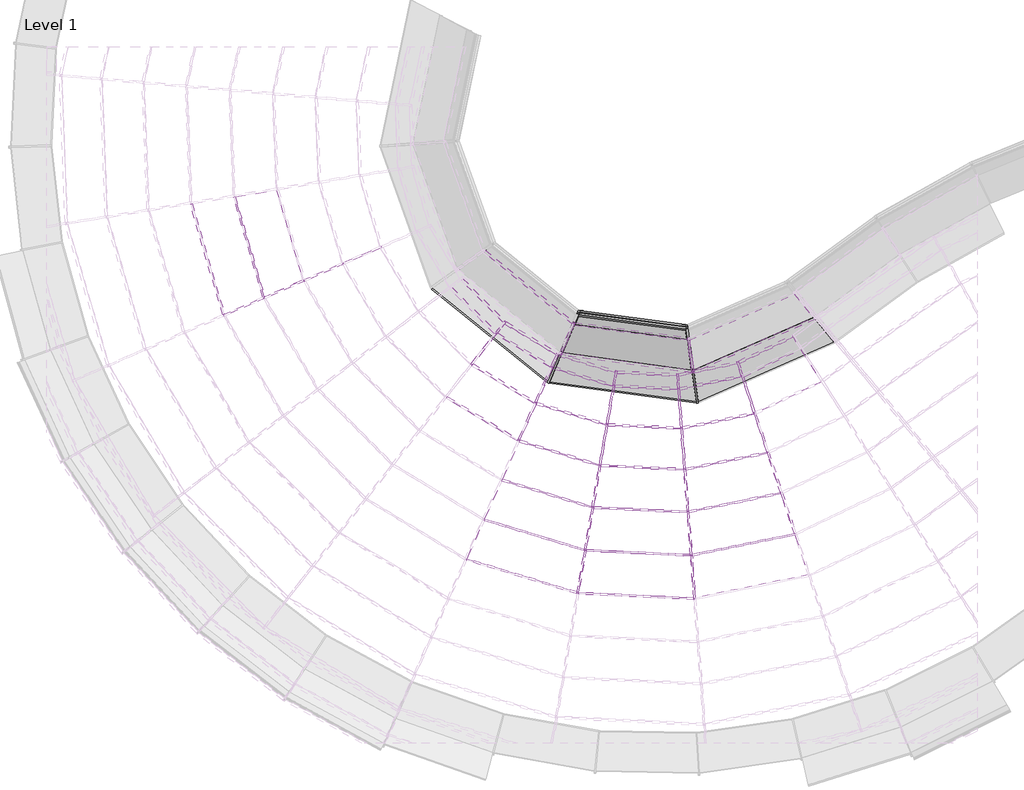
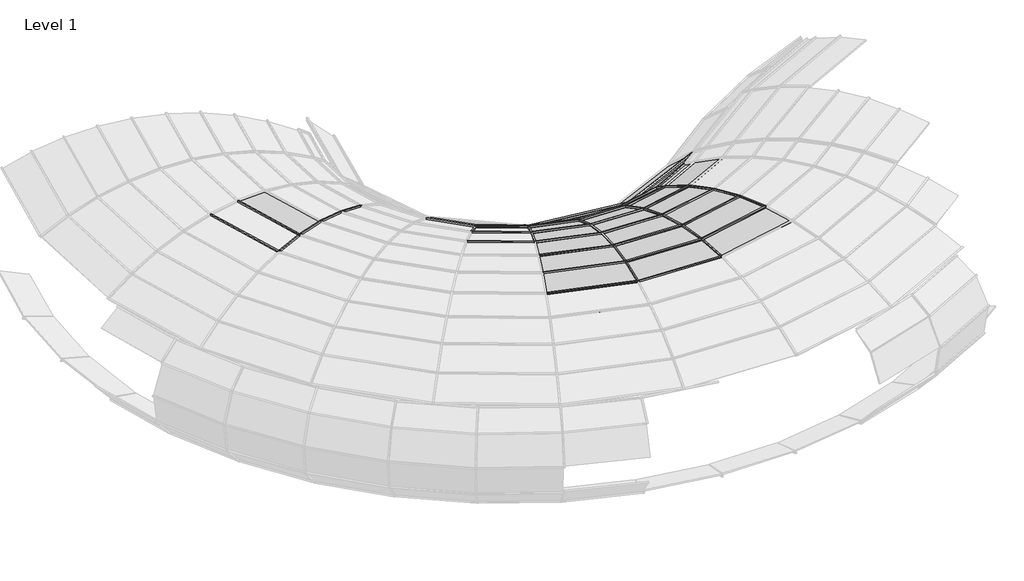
# One storey, part 5 of 23: 75 members, 29 plates.
"""IFC4 building model written with IfcOpenShell, lengths in millimetres."""

from ifc_helpers import new_model, si_unit, origin, place, context, project, spatial, transform, mapped, element, save
from components import member_c876edb5, member_782630c7, member_398e5ff5, member_01d9c279, member_398607d0, member_5ccaa950, member_8174f0e4, member_18f2ae55, member_299080b6, member_cb0bb3a9, member_172ab1ab, member_54499f2f, member_c8b9029b, member_0cd36c09, member_d0a40a1c, member_ff9adfd2, member_8c9da58c, member_391bee44, member_01ebdf2a, member_d6b8231b, system_panel_glazed_7bf4cd1b, system_panel_glazed_9f229a92, system_panel_glazed_a07c5774, system_panel_glazed_4fd85c75, system_panel_glazed_1256fb3b, system_panel_glazed_de823024, system_panel_glazed_b0e446d2, system_panel_glazed_ac948568, system_panel_glazed_688557e5, system_panel_glazed_4c871569, system_panel_glazed_08c7efc5

model = new_model("IFC4")

# Units and contexts
model_context = context("Model", 3, world=origin())
ifc_project = project(units=[si_unit("LENGTHUNIT", "METRE", prefix="MILLI")], contexts=[model_context])

# Site, building, storey
site = spatial("IfcSite", under=ifc_project)
building = spatial("IfcBuilding", under=site)
storey = spatial("IfcBuildingStorey", under=building, Name="Level 1", Elevation=0.0)

# Members
placement = place(None, origin())
member_shape = member_c876edb5(model_context)
element("IfcMember", 1, ObjectType="Rectangular Mullion : 1\" Square", at=placement, inside=storey, context=model_context, shape_type="MappedRepresentation", body=[
    mapped(member_shape, transform((-11868.8961869, -5711.7892801, 2676.0506073), x_axis=(0.4970218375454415, 0.8247218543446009, -0.26982059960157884), y_axis=(0.13927225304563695, 0.23109823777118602, 0.9629106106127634), z_axis=(0.8564884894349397, -0.5161661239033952, 0.0))),
])
element("IfcMember", 2, ObjectType="Rectangular Mullion : 1\" Square", at=placement, inside=storey, context=model_context, shape_type="MappedRepresentation", body=[
    mapped(member_shape, transform((-10739.6248828, -6057.9710584, 2676.0506073), x_axis=(0.27979383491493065, 0.921364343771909, -0.26982059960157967), y_axis=(0.07840202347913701, 0.2581787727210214, 0.9629106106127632), z_axis=(0.9568534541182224, -0.29057093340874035, 0.0))),
])
element("IfcMember", 3, ObjectType="Rectangular Mullion : 1\" Square", at=placement, inside=storey, context=model_context, shape_type="MappedRepresentation", body=[
    mapped(member_shape, transform((-9559.9542553, -6116.9007844, 2676.0506073), x_axis=(0.04550783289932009, 0.961834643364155, -0.2698205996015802), y_axis=(0.012751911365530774, 0.2695190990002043, 0.962910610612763), z_axis=(0.9988825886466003, -0.04726070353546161, 0.0))),
])
element("IfcMember", 4, ObjectType="Rectangular Mullion : 1\" Square", at=placement, inside=storey, context=model_context, shape_type="MappedRepresentation", body=[
    mapped(member_shape, transform((-8401.8044769, -5884.9857297, 2676.0506073), x_axis=(-0.1915526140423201, 0.9436654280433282, -0.26982059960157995), y_axis=(-0.05367563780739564, 0.26442783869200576, 0.9629106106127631), z_axis=(0.9800135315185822, 0.19893083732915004, 0.0))),
])
member_2_shape = member_782630c7(model_context)
element("IfcMember", 5, ObjectType="Rectangular Mullion : 1\" Square", at=placement, inside=storey, context=model_context, shape_type="MappedRepresentation", body=[
    mapped(member_2_shape, transform((-11634.8412772, -5185.6927273, 2475.91846), x_axis=(0.47703912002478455, 0.7915639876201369, -0.3819163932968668), y_axis=(0.19713230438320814, 0.32710699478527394, 0.924196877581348), z_axis=(0.8564884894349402, -0.5161661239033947, 0.0))),
])
element("IfcMember", 6, ObjectType="Rectangular Mullion : 1\" Square", at=placement, inside=storey, context=model_context, shape_type="MappedRepresentation", body=[
    mapped(member_2_shape, transform((-10641.6113447, -5490.5623609, 2475.91846), x_axis=(0.2685447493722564, 0.8843209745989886, -0.3819163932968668), y_axis=(0.1109738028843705, 0.36543802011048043, 0.9241968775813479), z_axis=(0.9568534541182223, -0.29057093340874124, 0.0))),
])
element("IfcMember", 7, ObjectType="Rectangular Mullion : 1\" Square", at=placement, inside=storey, context=model_context, shape_type="MappedRepresentation", body=[
    mapped(member_2_shape, transform((-9603.9576132, -5542.7727602, 2475.91846), x_axis=(0.04367819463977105, 0.9231641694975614, -0.3819163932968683), y_axis=(0.01804963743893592, 0.38148963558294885, 0.9241968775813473), z_axis=(0.9988825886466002, -0.04726070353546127, 0.0))),
])
element("IfcMember", 8, ObjectType="Rectangular Mullion : 1\" Square", at=placement, inside=storey, context=model_context, shape_type="MappedRepresentation", body=[
    mapped(member_2_shape, transform((-8585.1420081, -5339.1408495, 2475.91846), x_axis=(-0.18385125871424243, 0.9057254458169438, -0.381916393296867), y_axis=(-0.0759749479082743, 0.37428323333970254, 0.9241968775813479), z_axis=(0.9800135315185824, 0.19893083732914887, 0.0))),
])
member_3_shape = member_398e5ff5(model_context)
element("IfcMember", 9, ObjectType="Rectangular Mullion : 1\" Square", at=placement, inside=storey, context=model_context, shape_type="MappedRepresentation", body=[
    mapped(member_3_shape, transform((-12184.5228123, -4215.9945381, 2208.6526723), x_axis=(0.6196664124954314, 0.6140952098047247, -0.48877460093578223), y_axis=(0.3471729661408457, 0.34405165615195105, 0.8724101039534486), z_axis=(0.7039065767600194, -0.7102925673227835, 0.0))),
])
element("IfcMember", 10, ObjectType="Rectangular Mullion : 1\" Square", at=placement, inside=storey, context=model_context, shape_type="MappedRepresentation", body=[
    mapped(member_3_shape, transform((-11412.1368379, -4685.1091764, 2208.6526723), x_axis=(0.45030854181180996, 0.7472092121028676, -0.4887746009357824), y_axis=(0.2522888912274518, 0.41862981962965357, 0.8724101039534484), z_axis=(0.8564884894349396, -0.5161661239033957, 0.0))),
])
element("IfcMember", 11, ObjectType="Rectangular Mullion : 1\" Square", at=placement, inside=storey, context=model_context, shape_type="MappedRepresentation", body=[
    mapped(member_3_shape, transform((-10548.3509638, -4950.6700938, 2208.6526723), x_axis=(0.25349701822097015, 0.8347686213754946, -0.4887746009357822), y_axis=(0.1420236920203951, 0.467685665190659, 0.8724101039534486), z_axis=(0.9568534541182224, -0.2905709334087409, 0.0))),
])
element("IfcMember", 12, ObjectType="Rectangular Mullion : 1\" Square", at=placement, inside=storey, context=model_context, shape_type="MappedRepresentation", body=[
    mapped(member_3_shape, transform((-9645.8270325, -4996.4870195, 2208.6526723), x_axis=(0.04123071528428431, 0.8714352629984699, -0.48877460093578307), y_axis=(0.02309983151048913, 0.4882284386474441, 0.8724101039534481), z_axis=(0.9988825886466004, -0.04726070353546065, 0.0))),
])
element("IfcMember", 13, ObjectType="Rectangular Mullion : 1\" Square", at=placement, inside=storey, context=model_context, shape_type="MappedRepresentation", body=[
    mapped(member_3_shape, transform((-8759.5886034, -4819.7666644, 2208.6526723), x_axis=(-0.17354927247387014, 0.8549737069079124, -0.4887746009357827), y_axis=(-0.0972323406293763, 0.47900572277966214, 0.8724101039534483), z_axis=(0.9800135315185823, 0.19893083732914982, 0.0))),
])
member_4_shape = member_01d9c279(model_context)
element("IfcMember", 14, ObjectType="Rectangular Mullion : 1\" Square", at=placement, inside=storey, context=model_context, shape_type="MappedRepresentation", body=[
    mapped(member_4_shape, transform((-15967.8780384, -3961.1088587, 2850.17796), x_axis=(0.9561921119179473, 0.2809637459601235, 0.08219500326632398), y_axis=(-0.07886105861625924, -0.02317222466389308, 0.9966162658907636), z_axis=(0.2819176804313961, -0.9594385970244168, 0.0))),
])
element("IfcMember", 15, ObjectType="Rectangular Mullion : 1\" Square", at=placement, inside=storey, context=model_context, shape_type="MappedRepresentation", body=[
    mapped(member_4_shape, transform((-11048.0223247, -7843.3100458, 2850.17796), x_axis=(0.28958771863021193, 0.9536157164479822, 0.08219500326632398), y_axis=(-0.02388347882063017, -0.07864857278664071, 0.9966162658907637), z_axis=(0.9568534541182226, -0.2905709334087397, 0.0))),
])
element("IfcMember", 16, ObjectType="Rectangular Mullion : 1\" Square", at=placement, inside=storey, context=model_context, shape_type="MappedRepresentation", body=[
    mapped(member_4_shape, transform((-9421.4986575, -7923.3819854, 2850.17796), x_axis=(0.047100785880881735, 0.9955026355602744, 0.08219500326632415), y_axis=(-0.003884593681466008, -0.08210315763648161, 0.9966162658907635), z_axis=(0.9988825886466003, -0.04726070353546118, 0.0))),
])
member_5_shape = member_398607d0(model_context)
element("IfcMember", 17, ObjectType="Rectangular Mullion : 1\" Square", at=placement, inside=storey, context=model_context, shape_type="MappedRepresentation", body=[
    mapped(member_5_shape, transform((-15408.8503011, -3718.427119, 2864.5209769), x_axis=(0.9588108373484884, 0.281733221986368, -0.03616863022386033), y_axis=(0.034701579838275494, 0.010196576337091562, 0.9993457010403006), z_axis=(0.2819176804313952, -0.959438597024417, 0.0))),
])
element("IfcMember", 18, ObjectType="Rectangular Mullion : 1\" Square", at=placement, inside=storey, context=model_context, shape_type="MappedRepresentation", body=[
    mapped(member_5_shape, transform((-10944.2861608, -7242.7725814, 2864.5209769), x_axis=(0.2903808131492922, 0.956227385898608, -0.03616863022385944), y_axis=(0.01050955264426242, 0.03460807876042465, 0.9993457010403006), z_axis=(0.9568534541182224, -0.29057093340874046, 0.0))),
])
element("IfcMember", 19, ObjectType="Rectangular Mullion : 1\" Square", at=placement, inside=storey, context=model_context, shape_type="MappedRepresentation", body=[
    mapped(member_5_shape, transform((-9468.0711987, -7315.7328792, 2864.5209769), x_axis=(0.04722978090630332, 0.9982290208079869, -0.03616863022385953), y_axis=(0.0017093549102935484, 0.036128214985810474, 0.9993457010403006), z_axis=(0.9988825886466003, -0.047260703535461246, 0.0))),
])
element("IfcMember", 20, ObjectType="Rectangular Mullion : 1\" Square", at=placement, inside=storey, context=model_context, shape_type="MappedRepresentation", body=[
    mapped(member_5_shape, transform((-8018.9788571, -7024.7600198, 2864.5209769), x_axis=(-0.19880067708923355, 0.9793723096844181, -0.03616863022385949), y_axis=(-0.007195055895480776, 0.03544574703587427, 0.9993457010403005), z_axis=(0.9800135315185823, 0.19893083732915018, 0.0))),
])
member_6_shape = member_5ccaa950(model_context)
element("IfcMember", 21, ObjectType="Rectangular Mullion : 1\" Square", at=placement, inside=storey, context=model_context, shape_type="MappedRepresentation", body=[
    mapped(member_6_shape, transform((-10840.9972064, -6644.8240506, 2806.2019711), x_axis=(0.2871027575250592, 0.9454327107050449, -0.15404218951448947), y_axis=(0.04476018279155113, 0.14739580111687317, 0.9880642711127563), z_axis=(0.9568534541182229, -0.29057093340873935, 0.0))),
])
element("IfcMember", 22, ObjectType="Rectangular Mullion : 1\" Square", at=placement, inside=storey, context=model_context, shape_type="MappedRepresentation", body=[
    mapped(member_6_shape, transform((-9514.4429645, -6710.7033651, 2806.2019711), x_axis=(0.04669661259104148, 0.9869601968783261, -0.1540421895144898), y_axis=(0.007280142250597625, 0.15387006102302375, 0.9880642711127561), z_axis=(0.9988825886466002, -0.04726070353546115, 0.0))),
])
element("IfcMember", 23, ObjectType="Rectangular Mullion : 1\" Square", at=placement, inside=storey, context=model_context, shape_type="MappedRepresentation", body=[
    mapped(member_6_shape, transform((-8212.1842273, -6449.5359431, 2806.2019711), x_axis=(-0.19655645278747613, 0.9683163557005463, -0.1540421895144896), y_axis=(-0.03064374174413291, 0.1509634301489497, 0.9880642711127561), z_axis=(0.9800135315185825, 0.19893083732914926, 0.0))),
])
member_7_shape = member_8174f0e4(model_context)
element("IfcMember", 24, ObjectType="Rectangular Mullion : 1\" Square", at=placement, inside=storey, context=model_context, shape_type="MappedRepresentation", body=[
    mapped(member_7_shape, transform((-12056.8239607, -4053.5262386, 2085.6089632), x_axis=(0.6090655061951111, 0.6035896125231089, -0.5145082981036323), y_axis=(0.3654514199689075, 0.36216577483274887, 0.8574853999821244), z_axis=(0.7039065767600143, -0.7102925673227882, 0.0))),
])
element("IfcMember", 25, ObjectType="Rectangular Mullion : 1\" Square", at=placement, inside=storey, context=model_context, shape_type="MappedRepresentation", body=[
    mapped(member_7_shape, transform((-11328.1393936, -4496.3040537, 2085.6089632), x_axis=(0.44260491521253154, 0.7344263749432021, -0.5145082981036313), y_axis=(0.26557175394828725, 0.4406704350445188, 0.8574853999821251), z_axis=(0.8564884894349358, -0.5161661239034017, 0.0))),
])
element("IfcMember", 26, ObjectType="Rectangular Mullion : 1\" Square", at=placement, inside=storey, context=model_context, shape_type="MappedRepresentation", body=[
    mapped(member_7_shape, transform((-10513.1759413, -4747.0389008, 2085.6089632), x_axis=(0.2491603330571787, 0.82048786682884, -0.5145082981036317), y_axis=(0.14950115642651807, 0.49230904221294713, 0.8574853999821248), z_axis=(0.9568534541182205, -0.2905709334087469, 0.0))),
])
element("IfcMember", 27, ObjectType="Rectangular Mullion : 1\" Square", at=placement, inside=storey, context=model_context, shape_type="MappedRepresentation", body=[
    mapped(member_7_shape, transform((-9661.6189235, -4790.4443997, 2085.6089632), x_axis=(0.04052536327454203, 0.8565272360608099, -0.5145082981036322), y_axis=(0.02431602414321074, 0.5139333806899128, 0.8574853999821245), z_axis=(0.9988825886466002, -0.04726070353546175, 0.0))),
])
element("IfcMember", 28, ObjectType="Rectangular Mullion : 1\" Square", at=placement, inside=storey, context=model_context, shape_type="MappedRepresentation", body=[
    mapped(member_7_shape, transform((-8825.3846343, -4623.8742773, 2085.6089632), x_axis=(-0.1705802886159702, 0.8403472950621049, -0.5145082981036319), y_axis=(-0.10235156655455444, 0.5042250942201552, 0.8574853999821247), z_axis=(0.9800135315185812, 0.1989308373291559, 0.0))),
])
element("IfcMember", 29, ObjectType="Rectangular Mullion : 1\" Square", at=placement, inside=storey, context=model_context, shape_type="MappedRepresentation", body=[
    mapped(member_7_shape, transform((-8055.455198, -4257.4837002, 2085.6089632), x_axis=(-0.3712862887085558, 0.7729344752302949, -0.5145082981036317), y_axis=(-0.22277915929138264, 0.463776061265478, 0.8574853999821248), z_axis=(0.9013966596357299, 0.4329942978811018, 0.0))),
])
member_8_shape = member_18f2ae55(model_context)
element("IfcMember", 30, ObjectType="Rectangular Mullion : 1\" Square", at=placement, inside=storey, context=model_context, shape_type="MappedRepresentation", body=[
    mapped(member_8_shape, transform((-11104.0034032, -4080.1893958, 1696.6281859), x_axis=(0.36035852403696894, 0.4453942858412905, -0.8196131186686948), y_axis=(0.5155273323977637, 0.6371791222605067, 0.5729173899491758), z_axis=(0.7774144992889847, -0.6289886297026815, 0.0))),
])
element("IfcMember", 31, ObjectType="Rectangular Mullion : 1\" Square", at=placement, inside=storey, context=model_context, shape_type="MappedRepresentation", body=[
    mapped(member_8_shape, transform((-9508.3591434, -4300.8006749, 1696.6281859), x_axis=(0.076136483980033, 0.567835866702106, -0.8196131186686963), y_axis=(0.10892052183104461, 0.8123435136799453, 0.5729173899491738), z_axis=(0.991130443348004, -0.13289260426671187, 0.0))),
])
member_9_shape = member_299080b6(model_context)
element("IfcMember", 32, ObjectType="Rectangular Mullion : 1\" Square", at=placement, inside=storey, context=model_context, shape_type="MappedRepresentation", body=[
    mapped(member_9_shape, transform((-9534.3913665, -4116.3335679, 1116.1918244), x_axis=(0.003636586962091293, 0.027122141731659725, -0.9996255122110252), y_axis=(0.1328428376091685, 0.9907592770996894, 0.027364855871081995), z_axis=(0.9911304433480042, -0.13289260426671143, 0.0))),
])
member_10_shape = member_cb0bb3a9(model_context)
element("IfcMember", 33, ObjectType="Rectangular Mullion : 1\" Square", at=placement, inside=storey, context=model_context, shape_type="MappedRepresentation", body=[
    mapped(member_10_shape, transform((-11269.0502454, -4463.3104717, 113.4427618), x_axis=(-0.5666265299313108, -0.7003364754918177, -0.4341234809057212), y_axis=(0.27305873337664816, 0.3374938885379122, -0.9008533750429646), z_axis=(0.7774144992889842, -0.6289886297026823, 0.0))),
])
element("IfcMember", 34, ObjectType="Rectangular Mullion : 1\" Square", at=placement, inside=storey, context=model_context, shape_type="MappedRepresentation", body=[
    mapped(member_10_shape, transform((-9450.0666489, -4713.8675024, 113.4427618), x_axis=(-0.11971675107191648, -0.8928632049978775, -0.43412348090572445), y_axis=(0.057691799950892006, 0.43027299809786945, -0.9008533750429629), z_axis=(0.991130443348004, -0.13289260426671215, 0.0))),
])
member_11_shape = member_172ab1ab(model_context)
element("IfcMember", 35, ObjectType="Rectangular Mullion : 1\" Square", at=placement, inside=storey, context=model_context, shape_type="MappedRepresentation", body=[
    mapped(member_11_shape, transform((-11460.3758657, -4907.4321315, 0.0), x_axis=(-0.6111115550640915, -0.7553188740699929, -0.23671938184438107), y_axis=(0.1488937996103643, 0.18402907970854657, -0.9715780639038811), z_axis=(0.7774144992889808, -0.6289886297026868, 0.0))),
])
element("IfcMember", 36, ObjectType="Rectangular Mullion : 1\" Square", at=placement, inside=storey, context=model_context, shape_type="MappedRepresentation", body=[
    mapped(member_11_shape, transform((-9382.4928164, -5192.7028801, 0.0), x_axis=(-0.12911553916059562, -0.9629605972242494, -0.23671938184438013), y_axis=(0.031458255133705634, 0.234619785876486, -0.9715780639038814), z_axis=(0.9911304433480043, -0.13289260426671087, 0.0))),
])
member_12_shape = member_54499f2f(model_context)
element("IfcMember", 37, ObjectType="Rectangular Mullion : 1\" Square", at=placement, inside=storey, context=model_context, shape_type="MappedRepresentation", body=[
    mapped(member_12_shape, transform((-11091.7500818, -4051.7459212, 526.7119632), x_axis=(-0.3322238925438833, -0.4106205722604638, -0.8491278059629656), y_axis=(0.5340917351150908, 0.6601242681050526, -0.5281874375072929), z_axis=(0.7774144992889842, -0.6289886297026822, 0.0))),
])
element("IfcMember", 38, ObjectType="Rectangular Mullion : 1\" Square", at=placement, inside=storey, context=model_context, shape_type="MappedRepresentation", body=[
    mapped(member_12_shape, transform((-9512.6868643, -4270.1339835, 526.7119632), x_axis=(-0.07019220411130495, -0.5235026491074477, -0.8491278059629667), y_axis=(0.11284280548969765, 0.8415964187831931, -0.5281874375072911), z_axis=(0.991130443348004, -0.13289260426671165, 0.0))),
])
member_13_shape = member_c8b9029b(model_context)
element("IfcMember", 39, ObjectType="Rectangular Mullion : 1\" Square", at=placement, inside=storey, context=model_context, shape_type="MappedRepresentation", body=[
    mapped(member_13_shape, transform((-11267.2455509, -4520.9344627, 2085.6089632), x_axis=(-0.10072129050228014, -0.7511925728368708, 0.652353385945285), y_axis=(0.08669294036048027, 0.6465673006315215, 0.7579149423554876), z_axis=(-0.9911304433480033, 0.13289260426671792, 0.0))),
])
element("IfcMember", 40, ObjectType="Rectangular Mullion : 1\" Square", at=placement, inside=storey, context=model_context, shape_type="MappedRepresentation", body=[
    mapped(member_13_shape, transform((-9418.5551734, -4762.1459467, 2085.6089632), x_axis=(0.3046663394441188, -0.693983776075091, 0.6523533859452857), y_axis=(-0.2622327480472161, 0.5973264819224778, 0.757914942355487), z_axis=(-0.9156486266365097, -0.401979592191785, 0.0))),
])
member_14_shape = member_0cd36c09(model_context)
element("IfcMember", 41, ObjectType="Rectangular Mullion : 1\" Square", at=placement, inside=storey, context=model_context, shape_type="MappedRepresentation", body=[
    mapped(member_14_shape, transform((-9408.8128486, -7923.9821963, 2850.17796), x_axis=(0.9970757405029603, 0.07641968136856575, 0.0), y_axis=(0.0017980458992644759, -0.023459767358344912, 0.9997231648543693), z_axis=(0.07639852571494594, -0.9967997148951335, -0.023528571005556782))),
])
element("IfcMember", 42, ObjectType="Rectangular Mullion : 1\" Square", at=placement, inside=storey, context=model_context, shape_type="MappedRepresentation", body=[
    mapped(member_14_shape, transform((-14848.6521933, -3488.9764572, 2806.2019711), x_axis=(0.39821020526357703, -0.9172941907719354, 0.0), y_axis=(0.19584496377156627, 0.08501903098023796, 0.9769424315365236), z_axis=(-0.8961436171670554, -0.3890284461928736, 0.2135028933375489))),
])
element("IfcMember", 43, ObjectType="Rectangular Mullion : 1\" Square", at=placement, inside=storey, context=model_context, shape_type="MappedRepresentation", body=[
    mapped(member_14_shape, transform((-14302.3630442, -3251.8247164, 2676.0506073), x_axis=(0.3982102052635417, -0.9172941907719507, 0.0), y_axis=(0.30114838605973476, 0.13073271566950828, 0.9445732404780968), z_axis=(-0.8664515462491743, -0.37613870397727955, 0.32830076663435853))),
])
element("IfcMember", 44, ObjectType="Rectangular Mullion : 1\" Square", at=placement, inside=storey, context=model_context, shape_type="MappedRepresentation", body=[
    mapped(member_14_shape, transform((-11858.0187831, -5718.3445899, 2676.0506073), x_axis=(0.9136605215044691, -0.4064781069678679, 0.0), y_axis=(0.13344707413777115, 0.2999554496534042, 0.9445732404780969), z_axis=(-0.3839483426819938, -0.8630192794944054, 0.32830076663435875))),
])
element("IfcMember", 45, ObjectType="Rectangular Mullion : 1\" Square", at=placement, inside=storey, context=model_context, shape_type="MappedRepresentation", body=[
    mapped(member_14_shape, transform((-10828.8451676, -6648.5143015, 2806.2019711), x_axis=(0.9854064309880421, -0.17021799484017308, 0.0), y_axis=(0.0363420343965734, 0.21038712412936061, 0.9769424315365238), z_axis=(-0.16629318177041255, -0.9626853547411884, 0.2135028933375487))),
])
element("IfcMember", 46, ObjectType="Rectangular Mullion : 1\" Square", at=placement, inside=storey, context=model_context, shape_type="MappedRepresentation", body=[
    mapped(member_14_shape, transform((-10727.472844, -6061.6613092, 2676.0506073), x_axis=(0.9854064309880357, -0.17021799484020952, 0.0), y_axis=(0.05588269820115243, 0.32350968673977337, 0.944573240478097), z_axis=(-0.16078336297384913, -0.9307885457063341, 0.3283007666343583))),
])
element("IfcMember", 47, ObjectType="Rectangular Mullion : 1\" Square", at=placement, inside=storey, context=model_context, shape_type="MappedRepresentation", body=[
    mapped(member_14_shape, transform((-9455.3853899, -7316.3330901, 2864.5209769), x_axis=(0.9970757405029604, 0.07641968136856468, 0.0), y_axis=(-0.007310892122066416, 0.09538790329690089, 0.9954133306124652), z_axis=(0.07606916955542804, -0.9925024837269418, 0.09566766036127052))),
])
element("IfcMember", 48, ObjectType="Rectangular Mullion : 1\" Square", at=placement, inside=storey, context=model_context, shape_type="MappedRepresentation", body=[
    mapped(member_14_shape, transform((-9501.7571556, -6711.303576, 2806.2019711), x_axis=(0.9970757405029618, 0.07641968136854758, 0.0), y_axis=(-0.01631582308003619, 0.21287855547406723, 0.9769424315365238), z_axis=(0.07465762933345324, -0.9740855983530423, 0.2135028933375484))),
])
element("IfcMember", 49, ObjectType="Rectangular Mullion : 1\" Square", at=placement, inside=storey, context=model_context, shape_type="MappedRepresentation", body=[
    mapped(member_14_shape, transform((-9547.2684465, -6117.5009953, 2676.0506073), x_axis=(0.9970757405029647, 0.0764196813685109, 0.0), y_axis=(-0.025088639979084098, 0.3273407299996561, 0.9445732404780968), z_axis=(0.07218398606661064, -0.9418110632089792, 0.328300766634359))),
])
element("IfcMember", 50, ObjectType="Rectangular Mullion : 1\" Square", at=placement, inside=storey, context=model_context, shape_type="MappedRepresentation", body=[
    mapped(member_14_shape, transform((-8006.5326853, -7022.2335982, 2864.5209769), x_axis=(0.9479570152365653, 0.31839833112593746, 0.0), y_axis=(-0.030460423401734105, 0.09068882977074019, 0.9954133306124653), z_axis=(0.3169379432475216, -0.9436090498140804, 0.09566766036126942))),
])
element("IfcMember", 51, ObjectType="Rectangular Mullion : 1\" Square", at=placement, inside=storey, context=model_context, shape_type="MappedRepresentation", body=[
    mapped(member_14_shape, transform((-8199.7380555, -6447.0095214, 2806.2019711), x_axis=(0.9479570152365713, 0.31839833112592, 0.0), y_axis=(-0.06797896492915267, 0.202391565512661, 0.9769424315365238), z_axis=(0.3110568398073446, -0.9260994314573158, 0.21350289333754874))),
])
element("IfcMember", 52, ObjectType="Rectangular Mullion : 1\" Square", at=placement, inside=storey, context=model_context, shape_type="MappedRepresentation", body=[
    mapped(member_14_shape, transform((-8389.358305, -5882.459308, 2676.0506073), x_axis=(0.9479570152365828, 0.3183983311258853, 0.0), y_axis=(-0.1045304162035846, 0.31121501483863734, 0.9445732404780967), z_axis=(0.30075054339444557, -0.8954148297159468, 0.32830076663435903))),
])
member_15_shape = member_d0a40a1c(model_context)
element("IfcMember", 53, ObjectType="Rectangular Mullion : 1\" Square", at=placement, inside=storey, context=model_context, shape_type="MappedRepresentation", body=[
    mapped(member_15_shape, transform((-12514.1542272, -4655.7713534, 2475.91846), x_axis=(0.786212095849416, -0.6179567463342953, 0.0), y_axis=(0.2709296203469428, 0.3446974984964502, 0.8987662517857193), z_axis=(-0.5553986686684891, -0.7066208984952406, 0.4384281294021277))),
])
element("IfcMember", 54, ObjectType="Rectangular Mullion : 1\" Square", at=placement, inside=storey, context=model_context, shape_type="MappedRepresentation", body=[
    mapped(member_15_shape, transform((-11623.9638734, -5192.2480371, 2475.91846), x_axis=(0.9136605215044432, -0.40647810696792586, 0.0), y_axis=(0.17821143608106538, 0.40057447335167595, 0.8987662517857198), z_axis=(-0.3653288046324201, -0.8211672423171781, 0.438428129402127))),
])
element("IfcMember", 55, ObjectType="Rectangular Mullion : 1\" Square", at=placement, inside=storey, context=model_context, shape_type="MappedRepresentation", body=[
    mapped(member_15_shape, transform((-10629.4593059, -5494.2526118, 2475.91846), x_axis=(0.9854064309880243, -0.17021799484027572, 0.0), y_axis=(0.07462835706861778, 0.4320298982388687, 0.8987662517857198), z_axis=(-0.15298618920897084, -0.8856500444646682, 0.43842812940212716))),
])
element("IfcMember", 56, ObjectType="Rectangular Mullion : 1\" Square", at=placement, inside=storey, context=model_context, shape_type="MappedRepresentation", body=[
    mapped(member_15_shape, transform((-9591.2718044, -5543.3729712, 2475.91846), x_axis=(0.9970757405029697, 0.07641968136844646, 0.0), y_axis=(-0.03350453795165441, 0.43714605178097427, 0.89876625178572), z_axis=(0.06868343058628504, -0.8961380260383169, 0.43842812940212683))),
])
element("IfcMember", 57, ObjectType="Rectangular Mullion : 1\" Square", at=placement, inside=storey, context=model_context, shape_type="MappedRepresentation", body=[
    mapped(member_15_shape, transform((-8572.6958363, -5336.6144278, 2475.91846), x_axis=(0.9479570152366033, 0.31839833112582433, 0.0), y_axis=(-0.1395947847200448, 0.41561102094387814, 0.8987662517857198), z_axis=(0.28616567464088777, -0.851991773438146, 0.4384281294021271))),
])
member_16_shape = member_ff9adfd2(model_context)
element("IfcMember", 58, ObjectType="Rectangular Mullion : 1\" Square", at=placement, inside=storey, context=model_context, shape_type="MappedRepresentation", body=[
    mapped(member_16_shape, transform((-12175.5831987, -4225.0152537, 2208.6526723), x_axis=(0.7862120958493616, -0.6179567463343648, 0.0), y_axis=(0.3161500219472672, 0.4022303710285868, 0.8592205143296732), z_axis=(-0.5309611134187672, -0.6755295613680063, 0.5116054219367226))),
])
element("IfcMember", 59, ObjectType="Rectangular Mullion : 1\" Square", at=placement, inside=storey, context=model_context, shape_type="MappedRepresentation", body=[
    mapped(member_16_shape, transform((-11401.2594341, -4691.6644862, 2208.6526723), x_axis=(0.913660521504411, -0.40647810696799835, 0.0), y_axis=(0.20795640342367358, 0.46743367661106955, 0.8592205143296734), z_axis=(-0.3492543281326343, -0.7850358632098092, 0.5116054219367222))),
])
element("IfcMember", 60, ObjectType="Rectangular Mullion : 1\" Square", at=placement, inside=storey, context=model_context, shape_type="MappedRepresentation", body=[
    mapped(member_16_shape, transform((-10536.1989249, -4954.3603447, 2208.6526723), x_axis=(0.985406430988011, -0.1702179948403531, 0.0), y_axis=(0.08708444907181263, 0.5041392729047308, 0.8592205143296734), z_axis=(-0.1462547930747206, -0.8466814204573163, 0.5116054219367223))),
])
element("IfcMember", 61, ObjectType="Rectangular Mullion : 1\" Square", at=placement, inside=storey, context=model_context, shape_type="MappedRepresentation", body=[
    mapped(member_16_shape, transform((-9633.1412237, -4997.0872305, 2208.6526723), x_axis=(0.997075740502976, 0.07641968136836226, 0.0), y_axis=(-0.03909672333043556, 0.510109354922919, 0.8592205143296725), z_axis=(0.06566135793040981, -0.8567079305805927, 0.5116054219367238))),
])
element("IfcMember", 62, ObjectType="Rectangular Mullion : 1\" Square", at=placement, inside=storey, context=model_context, shape_type="MappedRepresentation", body=[
    mapped(member_16_shape, transform((-8747.1424315, -4817.2402427, 2208.6526723), x_axis=(0.9479570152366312, 0.31839833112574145, 0.0), y_axis=(-0.16289431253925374, 0.48497994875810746, 0.859220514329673), z_axis=(0.2735743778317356, -0.8145041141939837, 0.5116054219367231))),
])
element("IfcMember", 63, ObjectType="Rectangular Mullion : 1\" Square", at=placement, inside=storey, context=model_context, shape_type="MappedRepresentation", body=[
    mapped(member_14_shape, transform((-15964.2976838, -3973.2937289, 2850.17796), x_axis=(0.3982102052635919, -0.9172941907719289, 0.0), y_axis=(-0.021582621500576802, -0.009369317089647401, 0.9997231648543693), z_axis=(-0.9170402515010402, -0.398099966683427, -0.023528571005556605))),
])
element("IfcMember", 64, ObjectType="Rectangular Mullion : 1\" Square", at=placement, inside=storey, context=model_context, shape_type="MappedRepresentation", body=[
    mapped(member_14_shape, transform((-11035.8702859, -7847.0002967, 2850.17796), x_axis=(0.9854064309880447, -0.17021799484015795, 0.0), y_axis=(-0.004004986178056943, -0.023185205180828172, 0.9997231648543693), z_axis=(-0.17017087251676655, -0.985133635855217, -0.023528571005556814))),
])
element("IfcMember", 65, ObjectType="Rectangular Mullion : 1\" Square", at=placement, inside=storey, context=model_context, shape_type="MappedRepresentation", body=[
    mapped(member_14_shape, transform((-15405.2699465, -3730.6119892, 2864.5209769), x_axis=(0.39821020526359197, -0.9172941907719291, 0.0), y_axis=(0.08775538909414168, 0.03809583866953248, 0.9954133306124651), z_axis=(-0.9130868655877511, -0.396383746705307, 0.09566766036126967))),
])
element("IfcMember", 66, ObjectType="Rectangular Mullion : 1\" Square", at=placement, inside=storey, context=model_context, shape_type="MappedRepresentation", body=[
    mapped(member_14_shape, transform((-10932.134122, -7246.4628323, 2864.5209769), x_axis=(0.9854064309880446, -0.17021799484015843, 0.0), y_axis=(0.016284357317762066, 0.09427152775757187, 0.9954133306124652), z_axis=(-0.16943726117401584, -0.9808866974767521, 0.09566766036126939))),
])
member_17_shape = member_8c9da58c(model_context)
element("IfcMember", 67, ObjectType="Rectangular Mullion : 1\" Square", at=placement, inside=storey, context=model_context, shape_type="MappedRepresentation", body=[
    mapped(member_17_shape, transform((-11094.1302391, -4088.1775514, 1696.6281859), x_axis=(0.9184038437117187, -0.3956442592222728, 0.0), y_axis=(0.37671639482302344, 0.8744668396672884, 0.3056018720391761), z_axis=(-0.12090962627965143, -0.28066593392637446, 0.9521593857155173))),
])
element("IfcMember", 68, ObjectType="Rectangular Mullion : 1\" Square", at=placement, inside=storey, context=model_context, shape_type="MappedRepresentation", body=[
    mapped(member_17_shape, transform((-9495.7717867, -4302.488411, 1696.6281859), x_axis=(0.9901887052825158, 0.13973663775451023, 0.0), y_axis=(-0.1330515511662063, 0.9428174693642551, 0.30560187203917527), z_axis=(0.04270377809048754, -0.3026035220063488, 0.9521593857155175))),
])
element("IfcMember", 69, ObjectType="Rectangular Mullion : 1\" Square", at=placement, inside=storey, context=model_context, shape_type="MappedRepresentation", body=[
    mapped(member_17_shape, transform((-9521.8040098, -4118.021304, 1116.1918244), x_axis=(0.9901887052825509, 0.1397366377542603, 0.0), y_axis=(-0.13512456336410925, 0.957507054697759, -0.254797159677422), z_axis=(-0.03560449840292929, 0.2522972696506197, 0.9669945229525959))),
])
member_18_shape = member_391bee44(model_context)
element("IfcMember", 70, ObjectType="Rectangular Mullion : 1\" Square", at=placement, inside=storey, context=model_context, shape_type="MappedRepresentation", body=[
    mapped(member_18_shape, transform((-11081.8769177, -4059.7340768, 526.7119632), x_axis=(0.9184038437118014, -0.39564425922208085, 0.0), y_axis=(0.2682211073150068, 0.6226181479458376, -0.7351218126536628), z_axis=(0.29084672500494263, 0.6751386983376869, 0.6779350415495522))),
])
element("IfcMember", 71, ObjectType="Rectangular Mullion : 1\" Square", at=placement, inside=storey, context=model_context, shape_type="MappedRepresentation", body=[
    mapped(member_18_shape, transform((-9500.0995076, -4271.8217196, 526.7119632), x_axis=(0.9901887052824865, 0.1397366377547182, 0.0), y_axis=(-0.09473236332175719, 0.671283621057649, -0.7351218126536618), z_axis=(-0.10272345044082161, 0.7279093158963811, 0.6779350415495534))),
])
member_19_shape = member_01ebdf2a(model_context)
element("IfcMember", 72, ObjectType="Rectangular Mullion : 1\" Square", at=placement, inside=storey, context=model_context, shape_type="MappedRepresentation", body=[
    mapped(member_19_shape, transform((-11259.1770813, -4471.2986273, 113.4427618), x_axis=(0.9184038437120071, -0.39564425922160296, 0.0), y_axis=(0.09036089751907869, 0.20975356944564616, -0.9735698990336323), z_axis=(0.3851873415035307, 0.8941303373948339, 0.22838925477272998))),
])
element("IfcMember", 73, ObjectType="Rectangular Mullion : 1\" Square", at=placement, inside=storey, context=model_context, shape_type="MappedRepresentation", body=[
    mapped(member_19_shape, transform((-9437.4792922, -4715.5552385, 113.4427618), x_axis=(0.9901887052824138, 0.1397366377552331, 0.0), y_axis=(-0.03191434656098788, 0.226148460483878, -0.9735698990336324), z_axis=(-0.13604338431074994, 0.9640179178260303, 0.22838925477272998))),
])
member_20_shape = member_d6b8231b(model_context)
element("IfcMember", 74, ObjectType="Rectangular Mullion : 1\" Square", at=placement, inside=storey, context=model_context, shape_type="MappedRepresentation", body=[
    mapped(member_20_shape, transform((-9430.183911, -4767.2510875, 2085.6089632), x_axis=(0.9901887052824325, 0.13973663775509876, 0.0), y_axis=(-0.08916480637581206, 0.6318313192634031, 0.769960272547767), z_axis=(0.10759165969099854, -0.7624059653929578, 0.6380918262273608))),
])
element("IfcMember", 75, ObjectType="Rectangular Mullion : 1\" Square", at=placement, inside=storey, context=model_context, shape_type="MappedRepresentation", body=[
    mapped(member_20_shape, transform((-11279.8329075, -4519.2467266, 2085.6089632), x_axis=(0.9184038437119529, -0.39564425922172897, 0.0), y_axis=(0.2524573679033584, 0.5860259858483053, 0.7699602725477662), z_axis=(-0.30463036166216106, -0.7071344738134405, 0.6380918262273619))),
])

# Plates
system_panel_glazed_shape = system_panel_glazed_7bf4cd1b(model_context)
element("IfcPlate", 76, ObjectType="System Panel : Glazed", at=placement, inside=storey, context=model_context, shape_type="MappedRepresentation", body=[
    mapped(system_panel_glazed_shape, transform((-11811.4796339, -7598.199437, 2850.4790751), x_axis=(0.9568534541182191, -0.29057093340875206, 0.0), y_axis=(0.006889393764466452, 0.022686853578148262, -0.999718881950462), z_axis=(0.2904892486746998, 0.9565844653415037, 0.023709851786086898))),
])
element("IfcPlate", 77, ObjectType="System Panel : Glazed", at=placement, inside=storey, context=model_context, shape_type="MappedRepresentation", body=[
    mapped(system_panel_glazed_shape, transform((-10221.741525, -7872.8090038, 2850.4790751), x_axis=(0.9988825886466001, -0.047260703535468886, 0.0), y_axis=(0.0011205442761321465, 0.02368335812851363, -0.999718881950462), z_axis=(0.0472474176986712, 0.9986017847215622, 0.02370985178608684))),
])
element("IfcPlate", 78, ObjectType="System Panel : Glazed", at=placement, inside=storey, context=model_context, shape_type="MappedRepresentation", body=[
    mapped(system_panel_glazed_shape, transform((-8613.1775333, -7749.5225345, 2850.4790751), x_axis=(0.9800135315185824, 0.1989308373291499, 0.0), y_axis=(-0.004716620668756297, 0.023235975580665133, -0.9997188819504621), z_axis=(-0.198874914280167, 0.9797380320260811, 0.023709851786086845))),
])
system_panel_glazed_2_shape = system_panel_glazed_9f229a92(model_context)
element("IfcPlate", 79, ObjectType="System Panel : Glazed", at=placement, inside=storey, context=model_context, shape_type="MappedRepresentation", body=[
    mapped(system_panel_glazed_2_shape, transform((-15601.5354733, -3017.8309556, 2863.296718), x_axis=(0.2819176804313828, -0.9594385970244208, 0.0), y_axis=(-0.09248828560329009, -0.02717639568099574, -0.9953428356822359), z_axis=(0.9549703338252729, 0.2806047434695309, -0.09639833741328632))),
])
element("IfcPlate", 80, ObjectType="System Panel : Glazed", at=placement, inside=storey, context=model_context, shape_type="MappedRepresentation", body=[
    mapped(system_panel_glazed_2_shape, transform((-11635.767472, -7019.5772498, 2863.296718), x_axis=(0.9568534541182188, -0.29057093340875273, 0.0), y_axis=(-0.02801055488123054, -0.09223908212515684, -0.9953428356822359), z_axis=(0.2892176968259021, 0.9523972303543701, -0.09639833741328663))),
])
element("IfcPlate", 81, ObjectType="System Panel : Glazed", at=placement, inside=storey, context=model_context, shape_type="MappedRepresentation", body=[
    mapped(system_panel_glazed_2_shape, transform((-10193.1623403, -7268.7712322, 2863.296718), x_axis=(0.9988825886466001, -0.04726070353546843, 0.0), y_axis=(-0.004555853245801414, -0.09629062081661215, -0.9953428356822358), z_axis=(0.0470406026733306, 0.994230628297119, -0.09639833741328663))),
])
element("IfcPlate", 82, ObjectType="System Panel : Glazed", at=placement, inside=storey, context=model_context, shape_type="MappedRepresentation", body=[
    mapped(system_panel_glazed_2_shape, transform((-8733.4736932, -7156.8951362, 2863.296718), x_axis=(0.9800135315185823, 0.1989308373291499, 0.0), y_axis=(0.019176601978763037, -0.0944716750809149, -0.9953428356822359), z_axis=(-0.1980043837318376, 0.9754494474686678, -0.0963983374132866))),
])
system_panel_glazed_3_shape = system_panel_glazed_a07c5774(model_context)
element("IfcPlate", 83, ObjectType="System Panel : Glazed", at=placement, inside=storey, context=model_context, shape_type="MappedRepresentation", body=[
    mapped(system_panel_glazed_3_shape, transform((-11460.8659042, -6443.6243583, 2803.4705448), x_axis=(0.9568534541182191, -0.2905709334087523, 0.0), y_axis=(-0.062493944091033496, -0.20579328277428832, -0.9765979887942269), z_axis=(0.28377098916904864, 0.9344611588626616, -0.2150729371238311))),
])
element("IfcPlate", 84, ObjectType="System Panel : Glazed", at=placement, inside=storey, context=model_context, shape_type="MappedRepresentation", body=[
    mapped(system_panel_glazed_3_shape, transform((-10164.7149968, -6667.5200033, 2803.4705448), x_axis=(0.9988825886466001, -0.04726070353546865, 0.0), y_axis=(-0.010164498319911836, -0.2148326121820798, -0.9765979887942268), z_axis=(0.046154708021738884, 0.9755067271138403, -0.21507293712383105))),
])
element("IfcPlate", 85, ObjectType="System Panel : Glazed", at=placement, inside=storey, context=model_context, shape_type="MappedRepresentation", body=[
    mapped(system_panel_glazed_3_shape, transform((-8853.2149038, -6567.0016423, 2803.4705448), x_axis=(0.9800135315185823, 0.1989308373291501, 0.0), y_axis=(0.04278463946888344, -0.21077438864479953, -0.9765979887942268), z_axis=(-0.19427545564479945, 0.957079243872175, -0.21507293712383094))),
])
system_panel_glazed_4_shape = system_panel_glazed_4fd85c75(model_context)
element("IfcPlate", 86, ObjectType="System Panel : Glazed", at=placement, inside=storey, context=model_context, shape_type="MappedRepresentation", body=[
    mapped(system_panel_glazed_4_shape, transform((-11289.2630051, -5878.534021, 2671.8525455), x_axis=(0.9568534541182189, -0.29057093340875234, 0.0), y_axis=(-0.09604997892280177, -0.3162936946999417, -0.9437863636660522), z_axis=(0.27423688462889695, 0.9030652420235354, -0.33055604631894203))),
])
element("IfcPlate", 87, ObjectType="System Panel : Glazed", at=placement, inside=storey, context=model_context, shape_type="MappedRepresentation", body=[
    mapped(system_panel_glazed_4_shape, transform((-10136.8041743, -6077.6084588, 2671.8525455), x_axis=(0.9988825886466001, -0.047260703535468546, 0.0), y_axis=(-0.01562231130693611, -0.33018667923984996, -0.9437863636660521), z_axis=(0.04460400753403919, 0.9427317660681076, -0.3305560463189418))),
])
element("IfcPlate", 88, ObjectType="System Panel : Glazed", at=placement, inside=storey, context=model_context, shape_type="MappedRepresentation", body=[
    mapped(system_panel_glazed_4_shape, transform((-8970.697778, -5988.2336244, 2671.8525455), x_axis=(0.9800135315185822, 0.19893083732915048, 0.0), y_axis=(0.06575779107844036, -0.3239493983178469, -0.9437863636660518), z_axis=(-0.187748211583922, 0.9249234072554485, -0.33055604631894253))),
])
system_panel_glazed_5_shape = system_panel_glazed_1256fb3b(model_context)
element("IfcPlate", 89, ObjectType="System Panel : Glazed", at=placement, inside=storey, context=model_context, shape_type="MappedRepresentation", body=[
    mapped(system_panel_glazed_5_shape, transform((-11123.3998394, -5332.3446925, 2470.3158265), x_axis=(0.9568534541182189, -0.2905709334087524, 0.0), y_axis=(-0.12818601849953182, -0.42211804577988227, -0.8974322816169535), z_axis=(0.26076773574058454, 0.8587111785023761, -0.44115224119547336))),
])
element("IfcPlate", 90, ObjectType="System Panel : Glazed", at=placement, inside=storey, context=model_context, shape_type="MappedRepresentation", body=[
    mapped(system_panel_glazed_5_shape, transform((-10109.8269065, -5507.4281371, 2470.3158265), x_axis=(0.9988825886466, -0.04726070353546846, 0.0), y_axis=(-0.020849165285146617, -0.4406592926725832, -0.8974322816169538), z_axis=(0.042413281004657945, 0.8964294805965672, -0.4411522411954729))),
])
element("IfcPlate", 91, ObjectType="System Panel : Glazed", at=placement, inside=storey, context=model_context, shape_type="MappedRepresentation", body=[
    mapped(system_panel_glazed_5_shape, transform((-9084.2511127, -5428.8241031, 2470.3158265), x_axis=(0.9800135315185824, 0.1989308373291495, 0.0), y_axis=(0.08775878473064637, -0.432335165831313, -0.8974322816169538), z_axis=(-0.17852695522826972, 0.8794957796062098, -0.441152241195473))),
])
element("IfcPlate", 92, ObjectType="System Panel : Glazed", at=placement, inside=storey, context=model_context, shape_type="MappedRepresentation", body=[
    mapped(system_panel_glazed_5_shape, transform((-8109.198036, -5101.3247889, 2470.3158265), x_axis=(0.9013966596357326, 0.43299429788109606, 0.0), y_axis=(0.19101640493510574, -0.3976531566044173, -0.8974322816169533), z_axis=(-0.388583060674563, 0.8089424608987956, -0.44115224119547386))),
])
system_panel_glazed_6_shape = system_panel_glazed_de823024(model_context)
element("IfcPlate", 93, ObjectType="System Panel : Glazed", at=placement, inside=storey, context=model_context, shape_type="MappedRepresentation", body=[
    mapped(system_panel_glazed_6_shape, transform((-11782.800234, -4449.012655, 2202.1184169), x_axis=(0.8564884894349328, -0.5161661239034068, 0.0), y_axis=(-0.2655717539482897, -0.4406704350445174, -0.8574853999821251), z_axis=(0.44260491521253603, 0.7344263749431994, -0.5145082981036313))),
])
element("IfcPlate", 94, ObjectType="System Panel : Glazed", at=placement, inside=storey, context=model_context, shape_type="MappedRepresentation", body=[
    mapped(system_panel_glazed_6_shape, transform((-10965.5648433, -4812.5922195, 2202.1184169), x_axis=(0.9568534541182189, -0.29057093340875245, 0.0), y_axis=(-0.14950115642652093, -0.4923090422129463, -0.8574853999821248), z_axis=(0.24916033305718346, 0.8204878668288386, -0.5145082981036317))),
])
element("IfcPlate", 95, ObjectType="System Panel : Glazed", at=placement, inside=storey, context=model_context, shape_type="MappedRepresentation", body=[
    mapped(system_panel_glazed_6_shape, transform((-10084.1554022, -4964.8458917, 2202.1184169), x_axis=(0.9988825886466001, -0.04726070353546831, 0.0), y_axis=(-0.024316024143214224, -0.5139333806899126, -0.8574853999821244), z_axis=(0.040525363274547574, 0.8565272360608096, -0.5145082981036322))),
])
element("IfcPlate", 96, ObjectType="System Panel : Glazed", at=placement, inside=storey, context=model_context, shape_type="MappedRepresentation", body=[
    mapped(system_panel_glazed_6_shape, transform((-9192.3081973, -4896.491326, 2202.1184169), x_axis=(0.9800135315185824, 0.19893083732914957, 0.0), y_axis=(0.10235156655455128, -0.5042250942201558, -0.8574853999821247), z_axis=(-0.17058028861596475, 0.8403472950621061, -0.514508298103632))),
])
element("IfcPlate", 97, ObjectType="System Panel : Glazed", at=placement, inside=storey, context=model_context, shape_type="MappedRepresentation", body=[
    mapped(system_panel_glazed_6_shape, transform((-8344.3958671, -4611.6958484, 2202.1184169), x_axis=(0.9013966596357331, 0.4329942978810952, 0.0), y_axis=(0.2227791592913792, -0.46377606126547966, -0.8574853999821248), z_axis=(-0.37128628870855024, 0.7729344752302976, -0.5145082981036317))),
])
system_panel_glazed_7_shape = system_panel_glazed_b0e446d2(model_context)
element("IfcPlate", 98, ObjectType="System Panel : Glazed", at=placement, inside=storey, context=model_context, shape_type="MappedRepresentation", body=[
    mapped(system_panel_glazed_7_shape, transform((-10352.4500885, -4624.1686157, 2069.0391872), x_axis=(0.9911304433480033, -0.132892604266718, 0.0), y_axis=(-0.08669294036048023, -0.6465673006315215, -0.7579149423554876), z_axis=(0.10072129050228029, 0.7511925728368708, -0.652353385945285))),
])
element("IfcPlate", 99, ObjectType="System Panel : Glazed", at=placement, inside=storey, context=model_context, shape_type="MappedRepresentation", body=[
    mapped(system_panel_glazed_7_shape, transform((-8583.5300728, -4374.5364657, 2069.0391872), x_axis=(0.9156486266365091, 0.4019795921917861, 0.0), y_axis=(0.26223274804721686, -0.5973264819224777, -0.757914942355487), z_axis=(-0.3046663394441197, 0.6939837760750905, -0.6523533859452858))),
])
system_panel_glazed_8_shape = system_panel_glazed_ac948568(model_context)
element("IfcPlate", 100, ObjectType="System Panel : Glazed", at=placement, inside=storey, context=model_context, shape_type="MappedRepresentation", body=[
    mapped(system_panel_glazed_8_shape, transform((-10294.4527055, -4191.6165391, 1684.4943593), x_axis=(0.9911304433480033, -0.13289260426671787, 0.0), y_axis=(-0.1269681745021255, -0.9469452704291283, -0.2952519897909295), z_axis=(0.039236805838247, 0.292633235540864, -0.9554194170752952))),
])
system_panel_glazed_9_shape = system_panel_glazed_688557e5(model_context)
element("IfcPlate", 101, ObjectType="System Panel : Glazed", at=placement, inside=storey, context=model_context, shape_type="MappedRepresentation", body=[
    mapped(system_panel_glazed_9_shape, transform((-10271.5289031, -4020.6478194, 1103.8818104), x_axis=(0.9911304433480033, -0.13289260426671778, 0.0), y_axis=(-0.12881179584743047, -0.9606952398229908, 0.24591091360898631), z_axis=(-0.03267974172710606, -0.24372979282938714, -0.969292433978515))),
])
system_panel_glazed_10_shape = system_panel_glazed_4c871569(model_context)
element("IfcPlate", 102, ObjectType="System Panel : Glazed", at=placement, inside=storey, context=model_context, shape_type="MappedRepresentation", body=[
    mapped(system_panel_glazed_10_shape, transform((-10292.2070608, -4174.8682274, 517.9272991), x_axis=(0.9911304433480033, -0.13289260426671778, 0.0), y_axis=(-0.09192258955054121, -0.6855707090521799, 0.7221793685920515), z_axis=(-0.09597229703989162, -0.715773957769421, -0.691705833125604))),
])
system_panel_glazed_11_shape = system_panel_glazed_08c7efc5(model_context)
element("IfcPlate", 103, ObjectType="System Panel : Glazed", at=placement, inside=storey, context=model_context, shape_type="MappedRepresentation", body=[
    mapped(system_panel_glazed_11_shape, transform((-10349.9679541, -4605.6565325, 110.4364257), x_axis=(0.9911304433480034, -0.13289260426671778, 0.0), y_axis=(-0.03145825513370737, -0.2346197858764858, 0.9715780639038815), z_axis=(-0.1291155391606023, -0.9629605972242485, -0.23671938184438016))),
])
element("IfcPlate", 104, ObjectType="System Panel : Glazed", at=placement, inside=storey, context=model_context, shape_type="MappedRepresentation", body=[
    mapped(system_panel_glazed_11_shape, transform((-8591.0381457, -4357.4342127, 110.4364257), x_axis=(0.915648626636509, 0.4019795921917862, 0.0), y_axis=(0.09515636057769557, -0.2167517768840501, 0.9715780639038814), z_axis=(0.39055455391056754, -0.8896241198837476, -0.23671938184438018))),
])

save(model, "model.ifc")
